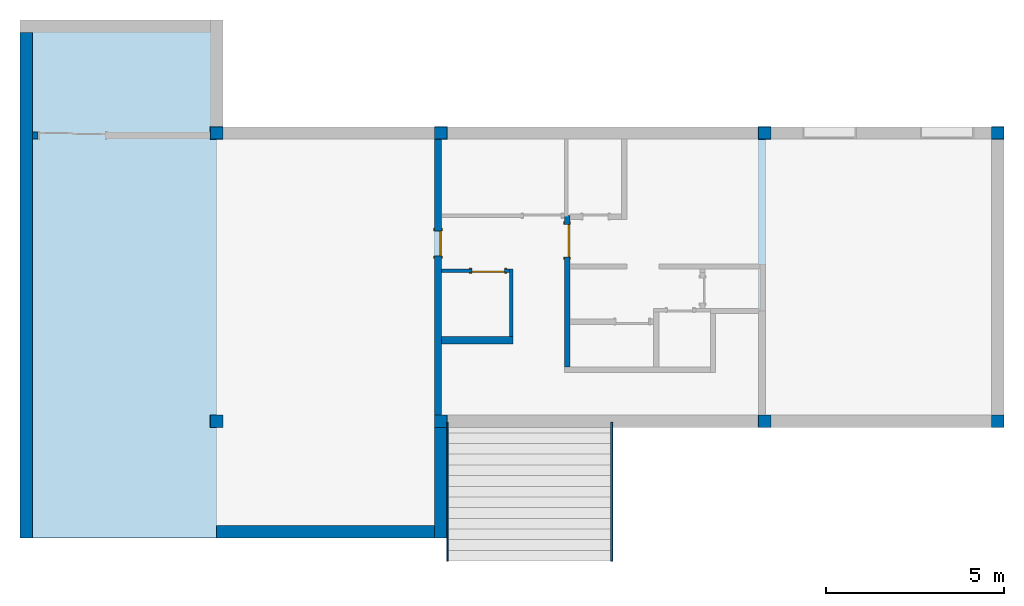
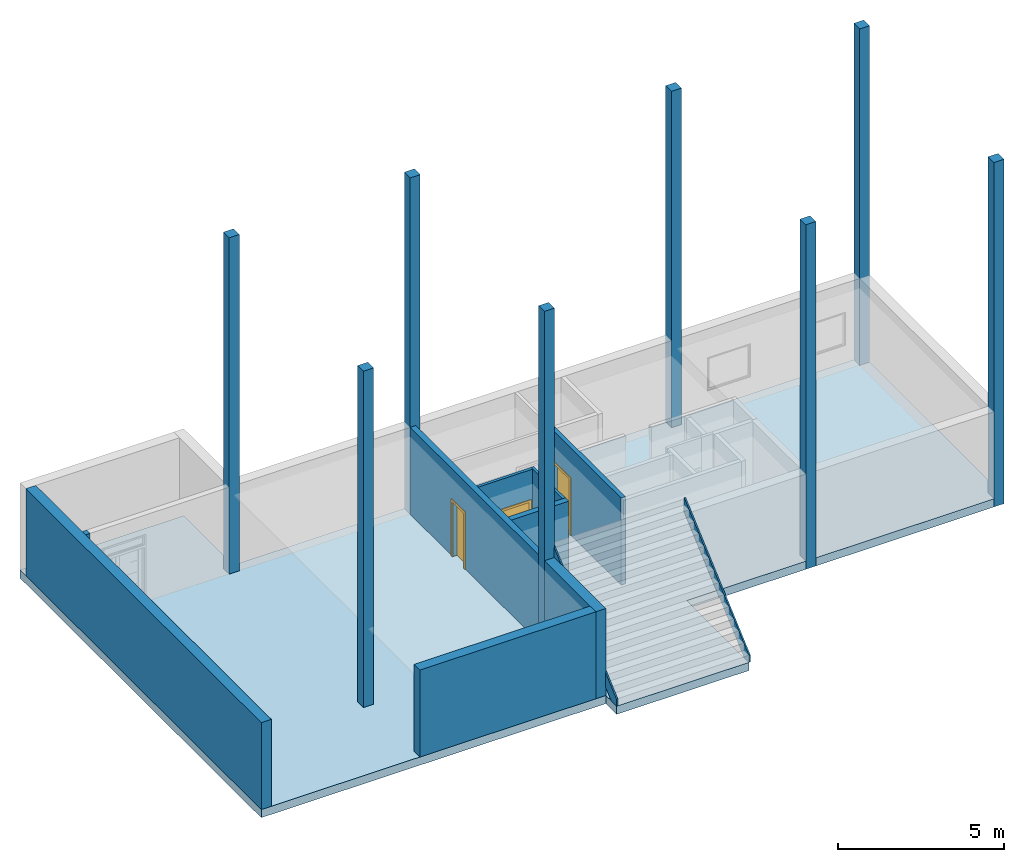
# One storey, part 1 of 5: 9 walls, 3 doors, 2 members, 1 column, 1 slab, 3 openings, 1 element without a shape of its own.
"""IFC2X3 building model written with IfcOpenShell, lengths in metres."""

from ifc_helpers import new_model, entity, si_unit, converted_unit, derived_unit, direction, frame, frame_2d, origin, origin_2d_with_axis, place, context, subcontext, project, spatial, polyline, rectangle, outline, extrude, source, transform, mapped, material, material_list, layer, layer_set, layer_usage, type_object, type_shapes, element, fill, aggregate, save


model = new_model("IFC2X3")

# Units and contexts
model_context = context("Model", 3, precision=1e-05, world=origin(), true_north=direction((6.123031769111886e-17, 1.0)))
body_context = subcontext(model_context, "Body", "Model", "MODEL_VIEW")
ifc_project = project(units=[si_unit("LENGTHUNIT", "METRE"), si_unit("AREAUNIT", "SQUARE_METRE"), si_unit("VOLUMEUNIT", "CUBIC_METRE"), converted_unit("PLANEANGLEUNIT", "DEGREE", entity("IfcRatioMeasure", 0.017453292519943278), si_unit("PLANEANGLEUNIT", "RADIAN"), dimensions=[0, 0, 0, 0, 0, 0, 0]), si_unit("MASSUNIT", "GRAM", prefix="KILO"), derived_unit("MASSDENSITYUNIT", [(si_unit("MASSUNIT", "GRAM", prefix="KILO"), 1), (si_unit("LENGTHUNIT", "METRE"), -3)]), derived_unit("MOMENTOFINERTIAUNIT", [(si_unit("LENGTHUNIT", "METRE"), 4)]), si_unit("TIMEUNIT", "SECOND"), si_unit("FREQUENCYUNIT", "HERTZ"), si_unit("THERMODYNAMICTEMPERATUREUNIT", "DEGREE_CELSIUS"), derived_unit("THERMALTRANSMITTANCEUNIT", [(si_unit("MASSUNIT", "GRAM", prefix="KILO"), 1), (si_unit("THERMODYNAMICTEMPERATUREUNIT", "KELVIN"), -1), (si_unit("TIMEUNIT", "SECOND"), -3)]), derived_unit("VOLUMETRICFLOWRATEUNIT", [(si_unit("LENGTHUNIT", "METRE"), 3), (si_unit("TIMEUNIT", "SECOND"), -1)]), derived_unit("MASSFLOWRATEUNIT", [(si_unit("MASSUNIT", "GRAM", prefix="KILO"), 1), (si_unit("TIMEUNIT", "SECOND"), -1)]), derived_unit("ROTATIONALFREQUENCYUNIT", [(si_unit("TIMEUNIT", "SECOND"), -1)]), si_unit("ELECTRICCURRENTUNIT", "AMPERE"), si_unit("ELECTRICVOLTAGEUNIT", "VOLT"), si_unit("POWERUNIT", "WATT"), si_unit("FORCEUNIT", "NEWTON", prefix="KILO"), si_unit("ILLUMINANCEUNIT", "LUX"), si_unit("LUMINOUSFLUXUNIT", "LUMEN"), si_unit("LUMINOUSINTENSITYUNIT", "CANDELA"), derived_unit("USERDEFINED", [(si_unit("MASSUNIT", "GRAM", prefix="KILO"), -1), (si_unit("LENGTHUNIT", "METRE"), -2), (si_unit("TIMEUNIT", "SECOND"), 3), (si_unit("LUMINOUSFLUXUNIT", "LUMEN"), 1)]), derived_unit("SOUNDPOWERUNIT", [(si_unit("MASSUNIT", "GRAM", prefix="KILO"), 1), (si_unit("LENGTHUNIT", "METRE"), 2), (si_unit("TIMEUNIT", "SECOND"), -3)]), derived_unit("SOUNDPRESSUREUNIT", [(si_unit("MASSUNIT", "GRAM", prefix="KILO"), 1), (si_unit("LENGTHUNIT", "METRE"), -1), (si_unit("TIMEUNIT", "SECOND"), -2)]), derived_unit("LINEARVELOCITYUNIT", [(si_unit("LENGTHUNIT", "METRE"), 1), (si_unit("TIMEUNIT", "SECOND"), -1)]), si_unit("PRESSUREUNIT", "PASCAL"), derived_unit("USERDEFINED", [(si_unit("LENGTHUNIT", "METRE"), -2), (si_unit("MASSUNIT", "GRAM", prefix="KILO"), 1), (si_unit("TIMEUNIT", "SECOND"), -2)]), derived_unit("LINEARFORCEUNIT", [(si_unit("MASSUNIT", "GRAM", prefix="KILO"), 1), (si_unit("LENGTHUNIT", "METRE"), 1), (si_unit("TIMEUNIT", "SECOND"), -2), (si_unit("LENGTHUNIT", "METRE"), -1)]), derived_unit("PLANARFORCEUNIT", [(si_unit("MASSUNIT", "GRAM", prefix="KILO"), 1), (si_unit("LENGTHUNIT", "METRE"), 1), (si_unit("TIMEUNIT", "SECOND"), -2), (si_unit("LENGTHUNIT", "METRE"), -2)])], contexts=[model_context])

# Site, building, storey
site_placement = place(None, origin())
site = spatial("IfcSite", under=ifc_project, at=site_placement, Name="Default", CompositionType="ELEMENT")
building_placement = place(site_placement, origin())
building = spatial("IfcBuilding", under=site, at=building_placement, CompositionType="ELEMENT")
storey_placement = place(building_placement, frame((0.0, 0.0, -2.3)))
storey = spatial("IfcBuildingStorey", under=building, at=storey_placement, Name="B1", CompositionType="ELEMENT", Elevation=-2.3)

# Column
column_type = type_object("IfcColumnType", Name="COLUMN:COLUMN", PredefinedType="COLUMN")
shared_shape_1 = source(origin(), body_context, "Body", "SweptSolid", [
    extrude(rectangle(XDim=0.3500000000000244, YDim=0.34999999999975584, at=origin_2d_with_axis()), frame((13.082683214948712, 2.8247074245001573, -2.6000000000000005), z_axis=(0.0, 0.0, 1.0), x_axis=(0.0, -1.0, 0.0)), (0.0, 0.0, 1.0), 12.680000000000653),
    extrude(rectangle(XDim=0.3500000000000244, YDim=0.34999999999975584, at=frame_2d((0.0, 4.3298697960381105e-15), x_axis=(1.0, 0.0))), frame((28.732683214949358, -5.275292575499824, -2.6000000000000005), z_axis=(0.0, 0.0, 1.0), x_axis=(0.0, -1.0, 0.0)), (0.0, 0.0, 1.0), 12.680000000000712),
    extrude(rectangle(XDim=0.3500000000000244, YDim=0.34999999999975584, at=origin_2d_with_axis()), frame((22.182683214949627, -5.275292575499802, -2.6000000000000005), z_axis=(0.0, 0.0, 1.0), x_axis=(0.0, -1.0, 0.0)), (0.0, 0.0, 1.0), 12.68),
    extrude(rectangle(XDim=0.3500000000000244, YDim=0.34999999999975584, at=origin_2d_with_axis()), frame((13.082683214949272, -5.275292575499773, -2.6000000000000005), z_axis=(0.0, 0.0, 1.0), x_axis=(0.0, -1.0, 0.0)), (0.0, 0.0, 1.0), 12.68),
    extrude(rectangle(XDim=0.3500000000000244, YDim=0.34999999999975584, at=origin_2d_with_axis()), frame((6.782683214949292, -5.275292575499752, -2.6000000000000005), z_axis=(0.0, 0.0, 1.0), x_axis=(0.0, -1.0, 0.0)), (0.0, 0.0, 1.0), 12.68),
    extrude(rectangle(XDim=0.3500000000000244, YDim=0.34999999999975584, at=origin_2d_with_axis()), frame((6.7826832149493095, 2.8247074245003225, -2.6000000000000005), z_axis=(0.0, 0.0, 1.0), x_axis=(0.0, -1.0, 0.0)), (0.0, 0.0, 1.0), 12.680000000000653),
    extrude(rectangle(XDim=0.3500000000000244, YDim=0.34999999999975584, at=origin_2d_with_axis()), frame((22.182683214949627, 2.824707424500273, -2.6000000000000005), z_axis=(0.0, 0.0, 1.0), x_axis=(0.0, -1.0, 0.0)), (0.0, 0.0, 1.0), 12.680000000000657),
    extrude(rectangle(XDim=0.3500000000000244, YDim=0.34999999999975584, at=frame_2d((0.0, 4.3298697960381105e-15), x_axis=(1.0, 0.0))), frame((28.732683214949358, 2.8247074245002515, -2.6), z_axis=(0.0, 0.0, 1.0), x_axis=(0.0, -1.0, 0.0)), (0.0, 0.0, 1.0), 12.679999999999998),
])
type_shapes(column_type, [shared_shape_1])
column_placement = place(storey_placement, frame((0.0, 0.0, 2.3)))
element("IfcColumn", 1, at=column_placement, inside=storey, type_object=column_type, Name="COLUMN:COLUMN", ObjectType="COLUMN:COLUMN", context=body_context, shape_type="MappedRepresentation", body=[
    mapped(shared_shape_1, transform((0.0, 0.0, 0.0), scale=1.0)),
])

# Stair, members
stair_placement = place(storey_placement, origin())
stair = element("IfcStair", 2, at=stair_placement, inside=storey, Name="Assembled Stair:Stair", ObjectType="Assembled Stair:190mm max riser 250mm going", ShapeType="STRAIGHT_RUN_STAIR")
ifc_material_1 = material(Name="<Unnamed>")
member_type = type_object("IfcMemberType", Name="Stringer:Stringer - 50 mm Width", PredefinedType="STRINGER")
member_1_placement = place(stair_placement, origin())
member_1 = element("IfcMember", 3, at=member_1_placement, type_object=member_type, material=ifc_material_1, Name="Assembled Stair:Stair:228969 Stringer 1", ObjectType="Stringer:Stringer - 50 mm Width", context=body_context, shape_type="SweptSolid", body=[
    extrude(outline(polyline([(-1.619880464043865, -1.4278461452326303), (-1.320478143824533, -1.4278461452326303), (2.280119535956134, 1.7406798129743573), (2.280119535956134, 2.273506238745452), (-1.619880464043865, -1.158493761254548), (-1.619880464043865, -1.4278461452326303)])), frame((13.245827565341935, -7.582428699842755, 1.4278461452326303), z_axis=(1.0, 0.0, 0.0), x_axis=(0.0, 1.0, 0.0)), (0.0, 0.0, 1.0), 0.04999999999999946),
])
member_2_placement = place(stair_placement, origin())
member_2 = element("IfcMember", 4, at=member_2_placement, type_object=member_type, material=ifc_material_1, Name="Assembled Stair:Stair:228969 Stringer 2", ObjectType="Stringer:Stringer - 50 mm Width", context=body_context, shape_type="SweptSolid", body=[
    extrude(outline(polyline([(-1.619880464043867, -1.4278461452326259), (-1.3204781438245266, -1.4278461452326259), (2.280119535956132, 1.7406798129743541), (2.280119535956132, 2.273506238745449), (-1.619880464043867, -1.1584937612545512), (-1.619880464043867, -1.4278461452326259)])), frame((17.85768321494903, -7.582428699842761, 1.4278461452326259), z_axis=(1.0, 0.0, 0.0), x_axis=(0.0, 1.0, 0.0)), (0.0, 0.0, 1.0), 0.04999999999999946),
])
aggregate(stair, [member_1, member_2])

# Slab
ifc_material_2 = material(Name="Default Floor")
ifc_layer_1 = layer(ifc_material_2, 0.29999999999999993)
ifc_layer_set_1 = layer_set([ifc_layer_1], Name="Floor:Generic 300mm")
ifc_layer_usage_1 = layer_usage(ifc_layer_set_1, "AXIS3", "POSITIVE", 0.0)
slab_type = type_object("IfcSlabType", Name="Floor:Generic 300mm", PredefinedType="FLOOR", material=ifc_layer_set_1)
slab_placement = place(storey_placement, origin())
element("IfcSlab", 5, at=slab_placement, inside=storey, type_object=slab_type, material=ifc_layer_usage_1, Name="Floor:Generic 300mm", ObjectType="Floor:Generic 300mm", PredefinedType="FLOOR", context=body_context, shape_type="SweptSolid", body=[
    extrude(outline(polyline([(-5.709596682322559, -12.390000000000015), (8.840403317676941, -12.390000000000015), (8.840403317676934, -6.689999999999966), (5.840403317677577, -6.689999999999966), (5.840403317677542, 15.260000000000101), (-2.6095966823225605, 15.260000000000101), (-2.6095966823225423, 4.209999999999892), (-6.3616132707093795, 4.209999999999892), (-6.361613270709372, -0.3900000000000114), (-5.709596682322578, -0.39000000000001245), (-5.709596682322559, -12.390000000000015)])), frame((13.647683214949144, -2.840695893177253, 0.0), z_axis=(0.0, 0.0, -1.0), x_axis=(0.0, 1.0, 0.0)), (0.0, 0.0, 1.0), 0.30000000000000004),
])

# Walls
ifc_material_3 = material(Name="Masonry - Concrete Block")
ifc_layer_2 = layer(ifc_material_3, 0.35)
ifc_layer_set_2 = layer_set([ifc_layer_2], Name="Basic Wall:CW 350")
ifc_layer_usage_2 = layer_usage(ifc_layer_set_2, "AXIS2", "NEGATIVE", 0.175)
wall_type_1 = type_object("IfcWallType", Name="Basic Wall:CW 350", PredefinedType="STANDARD", material=ifc_layer_set_2)
wall_1_placement = place(storey_placement, frame((1.4326832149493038, 5.649707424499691, 0.0), z_axis=(0.0, 0.0, 1.0), x_axis=(0.0, -1.0, 0.0)))
element("IfcWallStandardCase", 6, at=wall_1_placement, inside=storey, type_object=wall_type_1, material=ifc_layer_usage_2, Name="Basic Wall:CW 350", ObjectType="Basic Wall:CW 350", context=body_context, shape_type="SweptSolid", body=[
    extrude(rectangle(XDim=14.200000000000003, YDim=0.35000000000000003, at=frame_2d((7.100000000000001, 1.3877787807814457e-17), x_axis=(-1.0, 0.0))), origin(), (0.0, 0.0, 1.0), 3.2),
])
ifc_layer_3 = layer(ifc_material_3, 0.35)
ifc_layer_set_3 = layer_set([ifc_layer_3], Name="Basic Wall:CW 102-50-100p")
ifc_layer_usage_3 = layer_usage(ifc_layer_set_3, "AXIS2", "NEGATIVE", 0.175)
wall_type_2 = type_object("IfcWallType", Name="Basic Wall:CW 102-50-100p", PredefinedType="STANDARD", material=ifc_layer_set_3)
wall_2_placement = place(storey_placement, frame((13.08268321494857, -5.450292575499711, 0.0), z_axis=(0.0, 0.0, 1.0), x_axis=(0.0, -1.0, 0.0)))
element("IfcWallStandardCase", 7, at=wall_2_placement, inside=storey, type_object=wall_type_2, material=ifc_layer_usage_3, Name="Basic Wall:CW 102-50-100p", ObjectType="Basic Wall:CW 102-50-100p", context=body_context, shape_type="SweptSolid", body=[
    extrude(rectangle(XDim=3.100000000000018, YDim=0.3499999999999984, at=frame_2d((1.550000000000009, 0.0), x_axis=(-1.0, 0.0))), origin(), (0.0, 0.0, 1.0), 3.2),
])
ifc_layer_usage_4 = layer_usage(ifc_layer_set_3, "AXIS2", "NEGATIVE", 0.175)
wall_3_placement = place(storey_placement, frame((12.907683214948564, -8.375292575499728, 0.0), z_axis=(0.0, 0.0, 1.0), x_axis=(-1.0, 0.0, 0.0)))
element("IfcWallStandardCase", 8, at=wall_3_placement, inside=storey, type_object=wall_type_2, material=ifc_layer_usage_4, Name="Basic Wall:CW 102-50-100p", ObjectType="Basic Wall:CW 102-50-100p", context=body_context, shape_type="SweptSolid", body=[
    extrude(rectangle(XDim=6.125000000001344, YDim=0.35000000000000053, at=frame_2d((3.062500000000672, -2.636779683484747e-16), x_axis=(-1.0, 0.0))), origin(), (0.0, 0.0, 1.0), 3.2),
])

# Wall, opening, door
ifc_layer_4 = layer(ifc_material_3, 0.2)
ifc_layer_set_4 = layer_set([ifc_layer_4], Name="Basic Wall:CW 200")
ifc_layer_usage_5 = layer_usage(ifc_layer_set_4, "AXIS2", "NEGATIVE", 0.1)
wall_type_3 = type_object("IfcWallType", Name="Basic Wall:CW 200", PredefinedType="STANDARD", material=ifc_layer_set_4)
wall_4_placement = place(storey_placement, frame((13.007683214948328, 2.6497074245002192, 0.0), z_axis=(0.0, 0.0, 1.0), x_axis=(0.0, -1.0, 0.0)))
wall_4 = element("IfcWallStandardCase", 9, at=wall_4_placement, inside=storey, type_object=wall_type_3, material=ifc_layer_usage_5, Name="Basic Wall:CW 200", ObjectType="Basic Wall:CW 200", context=body_context, shape_type="SweptSolid", body=[
    extrude(rectangle(XDim=7.749999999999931, YDim=0.2, at=frame_2d((3.8749999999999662, -1.0824674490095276e-15), x_axis=(1.0, 0.0))), origin(), (0.0, 0.0, 1.0), 3.2),
])
opening_1_placement = place(wall_4_placement, frame((2.5750419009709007, -0.10000000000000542, 0.0)))
opening_1 = element("IfcOpeningElement", 10, at=opening_1_placement, cuts=wall_4, Name="M_Single-Flush:0762 x 2032mm:1", ObjectType="Opening", context=body_context, shape_type="SweptSolid", body=[
    extrude(rectangle(XDim=0.7000000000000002, YDim=2.0319999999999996, at=frame_2d((1.0159999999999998, 0.3500000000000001), x_axis=(0.0, 1.0))), frame((0.0, 0.0, 0.0), z_axis=(0.0, 1.0, 0.0), x_axis=(0.0, 0.0, 1.0)), (0.0, 0.0, 1.0), 0.2),
])
ifc_material_4 = material(Name="Door - Frame")
ifc_material_5 = material(Name="Door - Panel")
ifc_material_list_1 = material_list([ifc_material_4, ifc_material_5])
ifc_material_list_2 = material_list([ifc_material_4, ifc_material_4, ifc_material_5])
door_style_1 = type_object("IfcDoorStyle", Name="M_Single-Flush:0762 x 2032mm", ConstructionType="NOTDEFINED", OperationType="NOTDEFINED", ParameterTakesPrecedence=False, Sizeable=False, material=ifc_material_list_2)
shared_shape_2 = source(origin(), body_context, "Body", "SweptSolid", [
    extrude(outline(polyline([(-0.426, -1.0729999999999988), (0.4259999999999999, -1.0729999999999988), (0.4259999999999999, 1.0350000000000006), (0.3499999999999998, 1.0350000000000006), (0.3499999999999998, -0.9970000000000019), (-0.3499999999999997, -0.9970000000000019), (-0.3499999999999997, 1.0350000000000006), (-0.426, 1.0350000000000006), (-0.426, -1.0729999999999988)])), frame((0.35000000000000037, 0.19999999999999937, 1.0350000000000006), z_axis=(0.0, 1.0, 0.0), x_axis=(1.0, 0.0, 0.0)), (0.0, 0.0, 1.0), 0.024999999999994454),
    extrude(outline(polyline([(-1.0729999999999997, -0.42599999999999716), (1.0349999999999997, -0.42599999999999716), (1.0349999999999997, -0.3500000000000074), (-0.9969999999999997, -0.3500000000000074), (-0.9969999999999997, 0.35000000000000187), (1.0349999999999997, 0.35000000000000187), (1.0349999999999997, 0.4260000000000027), (-1.0729999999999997, 0.4260000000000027), (-1.0729999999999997, -0.42599999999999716)])), frame((0.35000000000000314, -0.02500000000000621, 1.0349999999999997), z_axis=(0.0, 1.0, 0.0), x_axis=(0.0, 0.0, -1.0)), (0.0, 0.0, 1.0), 0.02500000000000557),
    extrude(rectangle(XDim=0.051000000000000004, YDim=0.6999999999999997, at=frame_2d((-3.469446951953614e-18, 0.0), x_axis=(1.0, 0.0))), frame((0.35000000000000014, 0.17449999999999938, 0.0), z_axis=(0.0, 0.0, 1.0), x_axis=(0.0, 1.0, 0.0)), (0.0, 0.0, 1.0), 2.0319999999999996),
])
type_shapes(door_style_1, [shared_shape_2])
door_1_placement = place(opening_1_placement, origin())
door_1 = element("IfcDoor", 11, at=door_1_placement, inside=storey, type_object=door_style_1, material=ifc_material_list_1, Name="M_Single-Flush:0762 x 2032mm", ObjectType="M_Single-Flush:0762 x 2032mm", OverallHeight=2.0319999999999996, OverallWidth=0.7, context=body_context, shape_type="MappedRepresentation", body=[
    mapped(shared_shape_2, transform((0.0, 0.0, 0.0), scale=1.0)),
])
fill(opening_1, door_1)

# Walls
ifc_layer_usage_6 = layer_usage(ifc_layer_set_4, "AXIS2", "NEGATIVE", 0.1)
wall_5_placement = place(storey_placement, frame((13.107683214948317, -3.000376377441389, 0.0)))
element("IfcWallStandardCase", 12, at=wall_5_placement, inside=storey, type_object=wall_type_3, material=ifc_layer_usage_6, Name="Basic Wall:CW 200", ObjectType="Basic Wall:CW 200", context=body_context, shape_type="SweptSolid", body=[
    extrude(rectangle(XDim=2.0000000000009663, YDim=0.2, at=frame_2d((1.0000000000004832, 0.0), x_axis=(-1.0, 0.0))), origin(), (0.0, 0.0, 1.0), 3.2),
])
ifc_layer_usage_7 = layer_usage(ifc_layer_set_4, "AXIS2", "NEGATIVE", 0.1)
wall_6_placement = place(storey_placement, frame((1.7576832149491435, 2.7497074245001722, 0.0), z_axis=(0.0, 0.0, 1.0), x_axis=(-1.0, 0.0, 0.0)))
element("IfcWallStandardCase", 13, at=wall_6_placement, inside=storey, type_object=wall_type_3, material=ifc_layer_usage_7, Name="Basic Wall:CW 200", ObjectType="Basic Wall:CW 200", context=body_context, shape_type="SweptSolid", body=[
    extrude(rectangle(XDim=0.14999999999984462, YDim=0.2, at=frame_2d((0.07499999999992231, 0.0), x_axis=(-1.0, 0.0))), origin(), (0.0, 0.0, 1.0), 3.2),
])
ifc_layer_5 = layer(ifc_material_3, 0.1)
ifc_layer_set_5 = layer_set([ifc_layer_5], Name="Basic Wall:CW 100")
ifc_layer_usage_8 = layer_usage(ifc_layer_set_5, "AXIS2", "NEGATIVE", 0.05)
wall_type_4 = type_object("IfcWallType", Name="Basic Wall:CW 100", PredefinedType="STANDARD", material=ifc_layer_set_5)
wall_7_placement = place(storey_placement, frame((15.057683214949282, -2.9003763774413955, 0.0), z_axis=(0.0, 0.0, 1.0), x_axis=(0.0, 1.0, 0.0)))
element("IfcWallStandardCase", 14, at=wall_7_placement, inside=storey, type_object=wall_type_4, material=ifc_layer_usage_8, Name="Basic Wall:CW 100", ObjectType="Basic Wall:CW 100", context=body_context, shape_type="SweptSolid", body=[
    extrude(rectangle(XDim=1.9000000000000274, YDim=0.09999999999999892, at=frame_2d((0.9500000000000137, 0.0), x_axis=(-1.0, 0.0))), origin(), (0.0, 0.0, 1.0), 3.2),
])

# Wall, opening, door
ifc_layer_usage_9 = layer_usage(ifc_layer_set_5, "AXIS2", "NEGATIVE", 0.05)
wall_8_placement = place(storey_placement, frame((15.007683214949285, -1.0503763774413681, 0.0), z_axis=(0.0, 0.0, 1.0), x_axis=(-1.0, 0.0, 0.0)))
wall_8 = element("IfcWallStandardCase", 15, at=wall_8_placement, inside=storey, type_object=wall_type_4, material=ifc_layer_usage_9, Name="Basic Wall:CW 100", ObjectType="Basic Wall:CW 100", context=body_context, shape_type="SweptSolid", body=[
    extrude(rectangle(XDim=1.9000000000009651, YDim=0.1, at=frame_2d((0.9500000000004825, -2.42861286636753e-17), x_axis=(1.0, 0.0))), origin(), (0.0, 0.0, 1.0), 3.2),
])
opening_2_placement = place(wall_8_placement, frame((0.13542511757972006, -0.05000000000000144, 0.0)))
opening_2 = element("IfcOpeningElement", 16, at=opening_2_placement, cuts=wall_8, Name="M_Single-Flush:0915 x 2032mm:1", ObjectType="Opening", context=body_context, shape_type="SweptSolid", body=[
    extrude(rectangle(XDim=0.9149999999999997, YDim=2.0319999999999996, at=frame_2d((1.0159999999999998, 0.4575), x_axis=(0.0, 1.0))), frame((0.0, 0.0, 0.0), z_axis=(0.0, 1.0, 0.0), x_axis=(0.0, 0.0, 1.0)), (0.0, 0.0, 1.0), 0.1),
])
ifc_material_list_3 = material_list([ifc_material_4, ifc_material_4, ifc_material_5])
ifc_material_list_4 = material_list([ifc_material_4, ifc_material_4, ifc_material_5])
door_style_2 = type_object("IfcDoorStyle", Name="M_Single-Flush:0915 x 2032mm", ConstructionType="NOTDEFINED", OperationType="NOTDEFINED", ParameterTakesPrecedence=False, Sizeable=False, material=ifc_material_list_4)
shared_shape_3 = source(origin(), body_context, "Body", "SweptSolid", [
    extrude(outline(polyline([(-0.5334999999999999, -1.0729999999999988), (0.5334999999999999, -1.0729999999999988), (0.5334999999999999, 1.0350000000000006), (0.4574999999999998, 1.0350000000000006), (0.4574999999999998, -0.9970000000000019), (-0.4574999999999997, -0.9970000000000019), (-0.4574999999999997, 1.0350000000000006), (-0.5334999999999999, 1.0350000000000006), (-0.5334999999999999, -1.0729999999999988)])), frame((0.4575000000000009, 0.09999999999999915, 1.0350000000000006), z_axis=(0.0, 1.0, 0.0), x_axis=(1.0, 0.0, 0.0)), (0.0, 0.0, 1.0), 0.024999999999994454),
    extrude(outline(polyline([(-1.0729999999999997, -0.5334999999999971), (1.0349999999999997, -0.5334999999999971), (1.0349999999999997, -0.45750000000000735), (-0.9969999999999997, -0.45750000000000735), (-0.9969999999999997, 0.4575000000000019), (1.0349999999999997, 0.4575000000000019), (1.0349999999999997, 0.5335000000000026), (-1.0729999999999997, 0.5335000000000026), (-1.0729999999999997, -0.5334999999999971)])), frame((0.4575000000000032, -0.02500000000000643, 1.0349999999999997), z_axis=(0.0, 1.0, 0.0), x_axis=(0.0, 0.0, -1.0)), (0.0, 0.0, 1.0), 0.025000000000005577),
    extrude(rectangle(XDim=0.051000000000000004, YDim=0.9149999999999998, at=origin_2d_with_axis()), frame((0.4575000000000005, 0.07449999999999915, 0.0), z_axis=(0.0, 0.0, 1.0), x_axis=(0.0, 1.0, 0.0)), (0.0, 0.0, 1.0), 2.0319999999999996),
])
type_shapes(door_style_2, [shared_shape_3])
door_2_placement = place(opening_2_placement, origin())
door_2 = element("IfcDoor", 17, at=door_2_placement, inside=storey, type_object=door_style_2, material=ifc_material_list_3, Name="M_Single-Flush:0915 x 2032mm", ObjectType="M_Single-Flush:0915 x 2032mm", OverallHeight=2.0319999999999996, OverallWidth=0.9149999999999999, context=body_context, shape_type="MappedRepresentation", body=[
    mapped(shared_shape_3, transform((0.0, 0.0, 0.0), scale=1.0)),
])
fill(opening_2, door_2)

ifc_layer_6 = layer(ifc_material_3, 0.14999999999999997)
ifc_layer_set_6 = layer_set([ifc_layer_6], Name="Basic Wall:CW 150")
ifc_layer_usage_10 = layer_usage(ifc_layer_set_6, "AXIS2", "NEGATIVE", 0.07499999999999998)
wall_type_5 = type_object("IfcWallType", Name="Basic Wall:CW 150", PredefinedType="STANDARD", material=ifc_layer_set_6)
wall_9_placement = place(storey_placement, frame((16.63268321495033, -3.750376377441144, 0.0), z_axis=(0.0, 0.0, 1.0), x_axis=(0.0, 1.0, 0.0)))
wall_9 = element("IfcWallStandardCase", 18, at=wall_9_placement, inside=storey, type_object=wall_type_5, material=ifc_layer_usage_10, Name="Basic Wall:CW 150", ObjectType="Basic Wall:CW 150", context=body_context, shape_type="SweptSolid", body=[
    extrude(rectangle(XDim=4.250083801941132, YDim=0.15000000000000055, at=frame_2d((2.1250419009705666, -5.551115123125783e-17), x_axis=(1.0, 0.0))), origin(), (0.0, 0.0, 1.0), 3.2000000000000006),
])
opening_3_placement = place(wall_9_placement, frame((4.010083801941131, 0.07499999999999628, 0.0)))
opening_3 = element("IfcOpeningElement", 19, at=opening_3_placement, cuts=wall_9, Name="M_Single-Flush:0915 x 2032mm:1", ObjectType="Opening", context=body_context, shape_type="SweptSolid", body=[
    extrude(rectangle(XDim=0.9149999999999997, YDim=2.0319999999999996, at=frame_2d((1.0159999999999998, 0.4575000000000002), x_axis=(0.0, -1.0))), frame((0.0, 0.0, 0.0), z_axis=(0.0, -1.0, 0.0), x_axis=(0.0, 0.0, 1.0)), (0.0, 0.0, 1.0), 0.14999999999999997),
])
ifc_material_list_5 = material_list([ifc_material_4, ifc_material_4, ifc_material_5])
ifc_material_list_6 = material_list([ifc_material_4, ifc_material_4, ifc_material_5])
door_style_3 = type_object("IfcDoorStyle", Name="M_Single-Flush:0915 x 2032mm", ConstructionType="NOTDEFINED", OperationType="NOTDEFINED", ParameterTakesPrecedence=False, Sizeable=False, material=ifc_material_list_6)
shared_shape_4 = source(origin(), body_context, "Body", "SweptSolid", [
    extrude(outline(polyline([(-0.5334999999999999, -1.0729999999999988), (0.5334999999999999, -1.0729999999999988), (0.5334999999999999, 1.0350000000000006), (0.4574999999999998, 1.0350000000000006), (0.4574999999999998, -0.9970000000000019), (-0.4574999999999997, -0.9970000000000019), (-0.4574999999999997, 1.0350000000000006), (-0.5334999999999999, 1.0350000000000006), (-0.5334999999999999, -1.0729999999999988)])), frame((0.4575000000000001, 0.17499999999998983, 1.0350000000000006), z_axis=(0.0, -1.0, 0.0), x_axis=(-1.0, 0.0, 0.0)), (0.0, 0.0, 1.0), 0.024999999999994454),
    extrude(outline(polyline([(-1.0729999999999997, -0.5334999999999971), (1.0349999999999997, -0.5334999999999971), (1.0349999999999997, -0.45750000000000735), (-0.9969999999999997, -0.45750000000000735), (-0.9969999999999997, 0.4575000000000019), (1.0349999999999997, 0.4575000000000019), (1.0349999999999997, 0.5335000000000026), (-1.0729999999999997, 0.5335000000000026), (-1.0729999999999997, -0.5334999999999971)])), frame((0.4574999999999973, 0.0, 1.0349999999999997), z_axis=(0.0, -1.0, 0.0), x_axis=(0.0, 0.0, -1.0)), (0.0, 0.0, 1.0), 0.025000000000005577),
    extrude(rectangle(XDim=0.9149999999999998, YDim=0.051000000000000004, at=frame_2d((0.0, 3.469446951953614e-18), x_axis=(1.0, 0.0))), frame((0.45750000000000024, 0.12449999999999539, 0.0)), (0.0, 0.0, 1.0), 2.0319999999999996),
])
type_shapes(door_style_3, [shared_shape_4])
door_3_placement = place(opening_3_placement, frame((0.0, 0.0, 0.0), z_axis=(0.0, 0.0, 1.0), x_axis=(-1.0, 0.0, 0.0)))
door_3 = element("IfcDoor", 20, at=door_3_placement, inside=storey, type_object=door_style_3, material=ifc_material_list_5, Name="M_Single-Flush:0915 x 2032mm", ObjectType="M_Single-Flush:0915 x 2032mm", OverallHeight=2.0319999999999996, OverallWidth=0.9149999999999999, context=body_context, shape_type="MappedRepresentation", body=[
    mapped(shared_shape_4, transform((0.0, 0.0, 0.0), scale=1.0)),
])
fill(opening_3, door_3)

save(model, "model.ifc")
